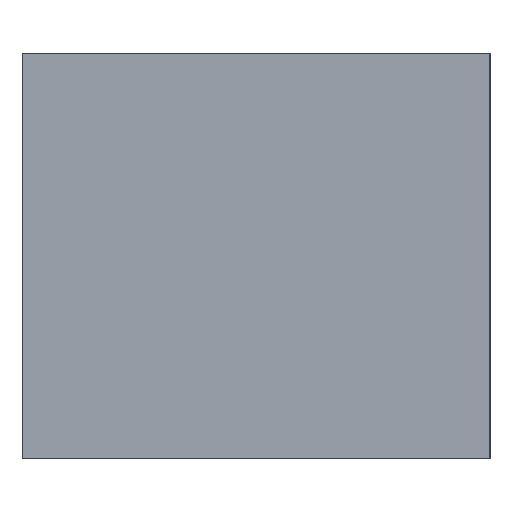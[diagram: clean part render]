
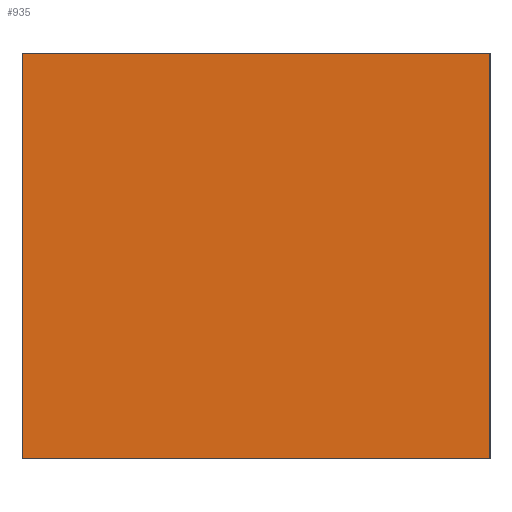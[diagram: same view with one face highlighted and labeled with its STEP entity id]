
A CAD part, left-side view. The second image highlights one B-rep face of the part: STEP entity #935.
In plain terms, the highlighted planar face has unit normal (-1, 0, 0).
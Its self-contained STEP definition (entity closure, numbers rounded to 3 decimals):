
#22=DIRECTION('',(0.,0.,-1.));
#23=VECTOR('',#22,70.);
#24=CARTESIAN_POINT('',(-62.,-40.5,0.));
#25=LINE('',#24,#23);
#226=DIRECTION('',(0.,0.,-1.));
#227=VECTOR('',#226,70.);
#228=CARTESIAN_POINT('',(-62.,40.5,0.));
#229=LINE('',#228,#227);
#248=DIRECTION('',(0.,1.,0.));
#249=VECTOR('',#248,81.);
#250=CARTESIAN_POINT('',(-62.,-40.5,-70.));
#251=LINE('',#250,#249);
#268=DIRECTION('',(0.,-1.,0.));
#269=VECTOR('',#268,81.);
#270=CARTESIAN_POINT('',(-62.,40.5,0.));
#271=LINE('',#270,#269);
#450=CARTESIAN_POINT('',(-62.,-40.5,0.));
#451=VERTEX_POINT('',#450);
#452=CARTESIAN_POINT('',(-62.,-40.5,-70.));
#453=VERTEX_POINT('',#452);
#454=CARTESIAN_POINT('',(-62.,40.5,0.));
#455=CARTESIAN_POINT('',(-62.,40.5,-70.));
#456=VERTEX_POINT('',#454);
#457=VERTEX_POINT('',#455);
#922=CARTESIAN_POINT('',(-62.,0.,-70.));
#923=DIRECTION('',(-1.,0.,0.));
#924=DIRECTION('',(0.,0.,1.));
#925=AXIS2_PLACEMENT_3D('',#922,#923,#924);
#926=PLANE('',#925);
#927=ORIENTED_EDGE('',*,*,#583,.T.);
#929=ORIENTED_EDGE('',*,*,#928,.T.);
#930=ORIENTED_EDGE('',*,*,#679,.F.);
#932=ORIENTED_EDGE('',*,*,#931,.T.);
#933=EDGE_LOOP('',(#927,#929,#930,#932));
#934=FACE_OUTER_BOUND('',#933,.F.);
#583=EDGE_CURVE('',#451,#453,#25,.T.);
#679=EDGE_CURVE('',#456,#457,#229,.T.);
#928=EDGE_CURVE('',#453,#457,#251,.T.);
#931=EDGE_CURVE('',#456,#451,#271,.T.);
#935=ADVANCED_FACE('',(#934),#926,.T.);
